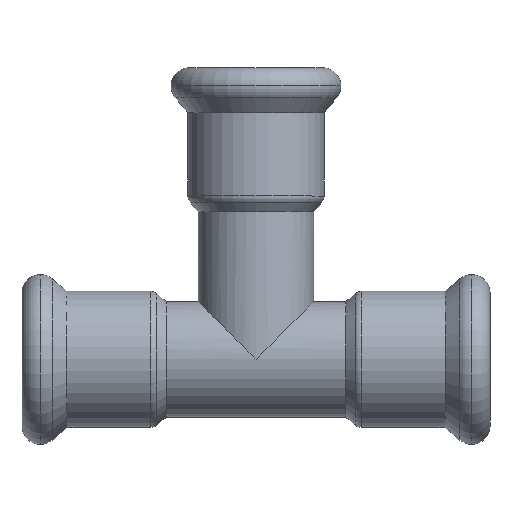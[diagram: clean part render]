
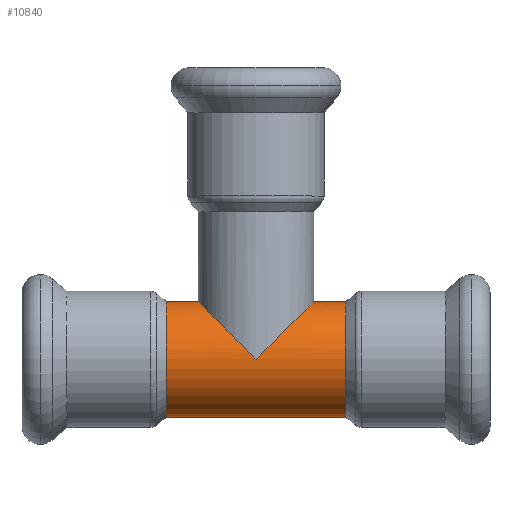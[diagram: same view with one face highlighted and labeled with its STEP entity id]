
A CAD part, top view. The second image highlights one B-rep face of the part: STEP entity #10840.
In plain terms, the highlighted cylindrical face has radius 9 mm (diameter 18 mm), a partial arc.
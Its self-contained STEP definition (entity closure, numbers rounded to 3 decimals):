
#6150=CARTESIAN_POINT('',(-216.976,10.621,0.));
#6160=VERTEX_POINT('',#6150);
#6340=CARTESIAN_POINT('',(-216.976,28.621,
0.));
#6350=VERTEX_POINT('',#6340);
#6380=CARTESIAN_POINT('',(-216.976,19.621,0.));
#6390=DIRECTION('',(-1.,0.,0.));
#6400=DIRECTION('',(0.,-1.,0.));
#6410=AXIS2_PLACEMENT_3D('',#6380,#6390,#6400);
#6420=CIRCLE('',#6410,9.);
#6430=EDGE_CURVE('',#6160,#6350,#6420,.T.);
#7190=CARTESIAN_POINT('',(-188.976,28.621,
0.));
#7200=VERTEX_POINT('',#7190);
#7380=CARTESIAN_POINT('',(-188.976,10.621,0.));
#7390=VERTEX_POINT('',#7380);
#7420=CARTESIAN_POINT('',(-188.976,19.621,0.));
#7430=DIRECTION('',(-1.,0.,0.));
#7440=DIRECTION('',(0.,1.,0.));
#7450=AXIS2_PLACEMENT_3D('',#7420,#7430,#7440);
#7460=CIRCLE('',#7450,9.);
#7470=EDGE_CURVE('',#7390,#7200,#7460,.T.);
#8400=CARTESIAN_POINT('',(-193.976,28.621,
0.));
#8410=VERTEX_POINT('',#8400);
#8490=CARTESIAN_POINT('',(-211.976,28.621,0.));
#8500=VERTEX_POINT('',#8490);
#8530=CARTESIAN_POINT('',(-202.976,19.621,0.));
#8540=DIRECTION('',(0.707,0.707,0.));
#8550=DIRECTION('',(-0.707,0.707,0.));
#8560=AXIS2_PLACEMENT_3D('',#8530,#8540,#8550);
#8570=ELLIPSE('',#8560,12.728,9.);
#8620=CARTESIAN_POINT('',(-202.976,19.621,0.));
#8630=DIRECTION('',(-0.707,0.707,0.));
#8640=DIRECTION('',(0.707,0.707,0.));
#8650=AXIS2_PLACEMENT_3D('',#8620,#8630,#8640);
#8660=ELLIPSE('',#8650,12.728,9.);
#10550=CARTESIAN_POINT('',(-216.976,19.621,0.));
#10560=DIRECTION('',(-1.,0.,0.));
#10570=DIRECTION('',(0.,1.,0.));
#10580=AXIS2_PLACEMENT_3D('',#10550,#10560,#10570);
#10590=CYLINDRICAL_SURFACE('',#10580,9.);
#10600=CARTESIAN_POINT('',(-216.976,10.621,
0.));
#10610=DIRECTION('',(-1.,0.,0.));
#10620=VECTOR('',#10610,1.);
#10630=LINE('',#10600,#10620);
#10640=EDGE_CURVE('',#7390,#6160,#10630,.T.);
#10650=ORIENTED_EDGE('',*,*,#10640,.F.);
#10660=ORIENTED_EDGE('',*,*,#6430,.F.);
#10670=CARTESIAN_POINT('',(-216.976,28.621,0.));
#10680=DIRECTION('',(-1.,0.,0.));
#10690=VECTOR('',#10680,1.);
#10700=LINE('',#10670,#10690);
#10710=EDGE_CURVE('',#8500,#6350,#10700,.T.);
#10720=ORIENTED_EDGE('',*,*,#10710,.T.);
#10730=CARTESIAN_POINT('',(-202.976,19.621,9.));
#10740=VERTEX_POINT('',#10730);
#10750=EDGE_CURVE('',#8500,#10740,#8570,.T.);
#10760=ORIENTED_EDGE('',*,*,#10750,.F.);
#10770=EDGE_CURVE('',#10740,#8410,#8660,.T.);
#10780=ORIENTED_EDGE('',*,*,#10770,.F.);
#10790=EDGE_CURVE('',#7200,#8410,#10700,.T.);
#10800=ORIENTED_EDGE('',*,*,#10790,.T.);
#10810=ORIENTED_EDGE('',*,*,#7470,.T.);
#10820=EDGE_LOOP('',(#10810,#10800,#10780,#10760,#10720,#10660,#10650));
#10830=FACE_OUTER_BOUND('',#10820,.T.);
#10840=ADVANCED_FACE('',(#10830),#10590,.T.);
